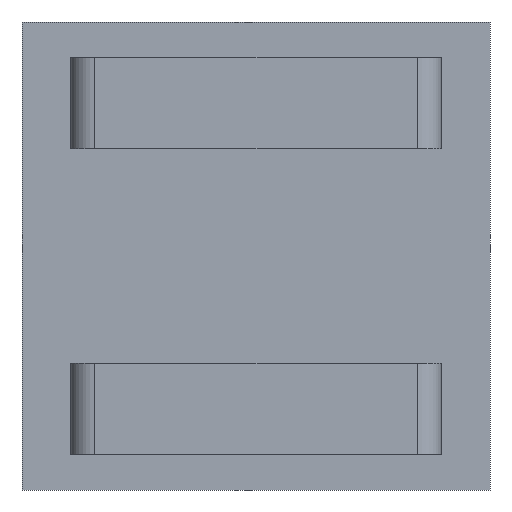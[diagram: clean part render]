
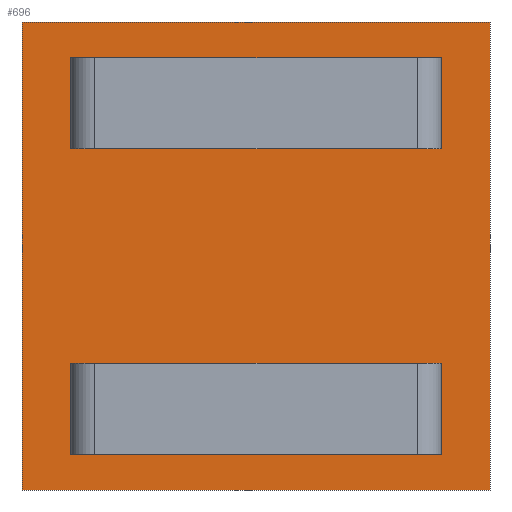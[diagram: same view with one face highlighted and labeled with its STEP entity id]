
A CAD part, front view. The second image highlights one B-rep face of the part: STEP entity #696.
In plain terms, the highlighted planar face has unit normal (0, -1, 0).
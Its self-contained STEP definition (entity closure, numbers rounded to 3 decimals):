
#40 = CARTESIAN_POINT ( 'NONE',  ( -8.2, 0., -8.2 ) ) ;
#41 = ORIENTED_EDGE ( 'NONE', *, *, #593, .F. ) ;
#81 = ORIENTED_EDGE ( 'NONE', *, *, #455, .F. ) ;
#85 = EDGE_LOOP ( 'NONE', ( #737, #729, #41, #81 ) ) ;
#129 = VERTEX_POINT ( 'NONE', #492 ) ;
#142 = VERTEX_POINT ( 'NONE', #230 ) ;
#152 = LINE ( 'NONE', #275, #227 ) ;
#175 = DIRECTION ( 'NONE',  ( 1., 0., 0. ) ) ;
#220 = EDGE_CURVE ( 'NONE', #436, #129, #337, .T. ) ;
#227 = VECTOR ( 'NONE', #268, 1000. ) ;
#229 = CARTESIAN_POINT ( 'NONE',  ( -8.2, 0., 8.2 ) ) ;
#230 = CARTESIAN_POINT ( 'NONE',  ( 8.2, 0., -8.2 ) ) ;
#248 = AXIS2_PLACEMENT_3D ( 'NONE', #297, #300, #485 ) ;
#268 = DIRECTION ( 'NONE',  ( 0., 0., -1. ) ) ;
#275 = CARTESIAN_POINT ( 'NONE',  ( 8.2, 0., -8.2 ) ) ;
#297 = CARTESIAN_POINT ( 'NONE',  ( 0., 0., 0. ) ) ;
#300 = DIRECTION ( 'NONE',  ( 0., 1., 0. ) ) ;
#337 = LINE ( 'NONE', #229, #745 ) ;
#408 = DIRECTION ( 'NONE',  ( 0., 0., 1. ) ) ;
#412 = CARTESIAN_POINT ( 'NONE',  ( -8.2, 0., -8.2 ) ) ;
#434 = FACE_OUTER_BOUND ( 'NONE', #85, .T. ) ;
#436 = VERTEX_POINT ( 'NONE', #736 ) ;
#441 = CARTESIAN_POINT ( 'NONE',  ( -8.2, 0., -8.2 ) ) ;
#455 = EDGE_CURVE ( 'NONE', #142, #476, #734, .T. ) ;
#463 = VECTOR ( 'NONE', #628, 1000. ) ;
#476 = VERTEX_POINT ( 'NONE', #40 ) ;
#485 = DIRECTION ( 'NONE',  ( 0., 0., 1. ) ) ;
#492 = CARTESIAN_POINT ( 'NONE',  ( 8.2, 0., 8.2 ) ) ;
#534 = EDGE_CURVE ( 'NONE', #129, #142, #152, .T. ) ;
#593 = EDGE_CURVE ( 'NONE', #476, #436, #749, .T. ) ;
#628 = DIRECTION ( 'NONE',  ( -1., 0., 0. ) ) ;
#630 = VECTOR ( 'NONE', #408, 1000. ) ;
#669 = PLANE ( 'NONE',  #248 ) ;
#696 = ADVANCED_FACE ( 'NONE', ( #434 ), #669, .F. ) ;
#729 = ORIENTED_EDGE ( 'NONE', *, *, #220, .F. ) ;
#734 = LINE ( 'NONE', #441, #463 ) ;
#736 = CARTESIAN_POINT ( 'NONE',  ( -8.2, 0., 8.2 ) ) ;
#737 = ORIENTED_EDGE ( 'NONE', *, *, #534, .F. ) ;
#745 = VECTOR ( 'NONE', #175, 1000. ) ;
#749 = LINE ( 'NONE', #412, #630 ) ;
